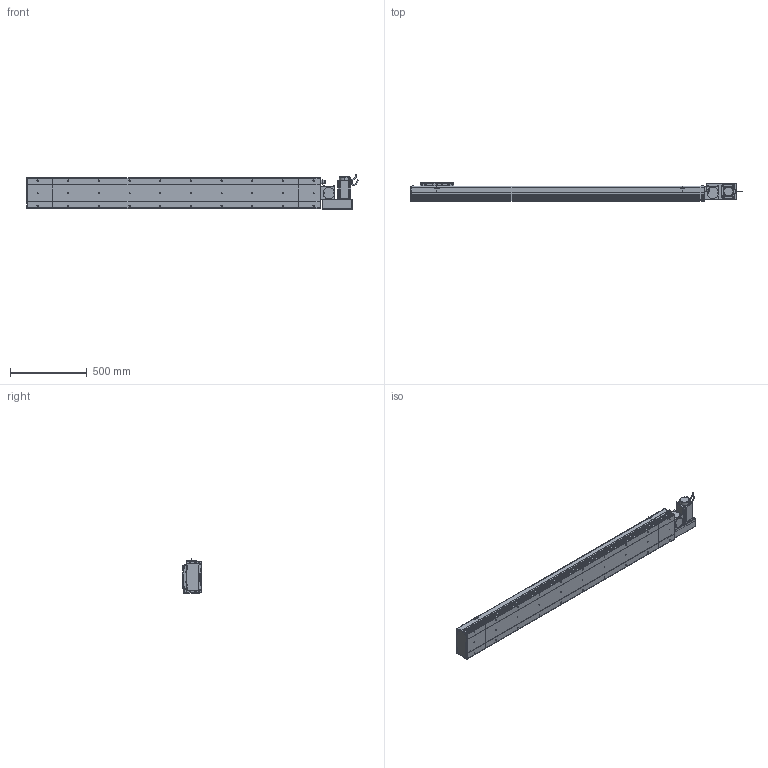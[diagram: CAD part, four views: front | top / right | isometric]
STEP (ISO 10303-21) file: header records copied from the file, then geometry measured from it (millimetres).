
FILE_DESCRIPTION (( 'STEP AP214' ), '1' );
FILE_NAME ('D20 CBH RH S1600.STEP', '2010-06-30T09:35:26', ( 'Conseil Régional Haute-Normandie' ), ( 'Conseil Régional Haute-Normandie' ), 'SwSTEP 2.0', 'SolidWorks 2010', '' );
FILE_SCHEMA (( 'AUTOMOTIVE_DESIGN' ));
Length unit declared in the file: millimetre
Products named in the file (31): ecrou_Default; Chariot D20_Default; vis M5 L15_Default; Support Chariot D20_Default; Corp Tail D20_Default; Tail D20_Default; Couvercle S1600_Default; Plaque De Serrage D20_Default; Plaque de Bout Tail D20_Default; Couvercle_Default; Corp S1600_Default; Corp D20 S1600_Default; vis M5 L47_Default; Cache Support Moteur RH_Default; vis M5 L30_Default; Glissiere_Default; Head D20 RH_Default; D20 CBH RH S1600; Plaque de Bout Head D20 RH_Default; Couvercle RH_Default; Corp Tail D20 RH_Default; Support moteur RH_Default; Rondelle Cache D20 RH_Default; Plaque De Serrage D20 RH_Default; corps 90BLDC125A-640; avant 90BLDC125A-640; Moteur motionking 90BLDC125A-640; Conecteur_Default; Conecteur2_Default; codeur 90BLDC125-640
Assembly tree (68 placements, depth 4):
  D20 CBH RH S1600
    Corp D20 S1600_Default
      Corp S1600_Default
      Couvercle S1600_Default
    Chariot D20_Default
      Support Chariot D20_Default
      vis M5 L15_Default  x8
      Glissiere_Default
      Chariot D20_Default
    Head D20 RH_Default
      vis M5 L15_Default  x14
      ecrou_Default  x4
      vis M5 L47_Default  x4
      vis M5 L30_Default  x4
      Cache Support Moteur RH_Default
      Moteur motionking 90BLDC125A-640
        codeur 90BLDC125-640
        Conecteur_Default
        avant 90BLDC125A-640
        Conecteur2_Default
        corps 90BLDC125A-640
      Corp Tail D20 RH_Default
      Support moteur RH_Default
      Plaque de Bout Head D20 RH_Default
      Couvercle RH_Default
      Rondelle Cache D20 RH_Default  x3
      Plaque De Serrage D20 RH_Default
    Tail D20_Default
      vis M5 L15_Default  x6
      Couvercle_Default
      Corp Tail D20_Default
      Plaque De Serrage D20_Default
      Plaque de Bout Tail D20_Default
Bounding box: 2165.45 x 119.5 x 229.7 mm (x, y, z)
Volume: 14397657.7 mm3; surface area: 2843538 mm2
Topology: 105 solids, 105 shells, 3799 faces, 9462 edges, 6142 vertices
Faces by surface type: plane 2122, bspline 806, cylinder 700, torus 95, cone 72, sphere 4
Entity records: 158942 total; most frequent: CARTESIAN_POINT 82235, ORIENTED_EDGE 15192, DIRECTION 11518, EDGE_CURVE 7596, VERTEX_POINT 5026, LINE 4924, VECTOR 4924, AXIS2_PLACEMENT_3D 3297
